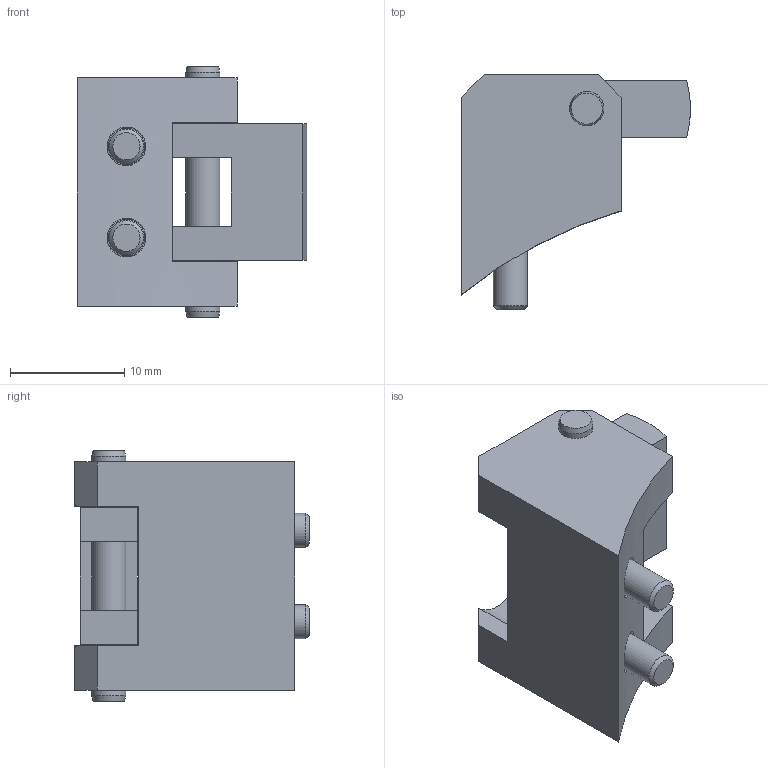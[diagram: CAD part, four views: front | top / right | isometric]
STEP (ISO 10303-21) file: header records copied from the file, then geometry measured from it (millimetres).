
FILE_DESCRIPTION(/* description */ (''),/* implementation_level */ '2;1');
FILE_NAME(/* name */ '\\dc01\daten\CAD\Standard\Daten\3D-Datenbank\SWS\4 - 3D-CAD-Daten SWS 050-160\SWS080\step-Daten\EG-SWS080-VS2.stp',/* time_stamp */ '2016-11-11T11:28:17+01:00',/* author */ ('ysplieth'),/* organization */ (''),/* preprocessor_version */ 'ST-DEVELOPER v15.2',/* originating_system */ 'Autodesk Inventor 2014',/* authorisation */ '');
FILE_SCHEMA (('AUTOMOTIVE_DESIGN { 1 0 10303 214 3 1 1 }'));
Length unit declared in the file: millimetre
Products named in the file (1): Bauteil1
Bounding box: 20.1 x 20.6 x 22 mm (x, y, z)
Volume: 3249.6 mm3; surface area: 2802.5 mm2
Topology: 1 solids, 1 shells, 73 faces, 175 edges, 114 vertices
Faces by surface type: plane 48, cylinder 15, cone 6, torus 4
Full cylindrical faces by diameter (mm): 3 x7, 3.4 x2, 5.5 x2, 6.5 x2
Entity records: 2076 total; most frequent: CARTESIAN_POINT 418, DIRECTION 322, ORIENTED_EDGE 292, EDGE_CURVE 146, AXIS2_PLACEMENT_3D 116, EDGE_LOOP 110, VERTEX_POINT 108, LINE 90
